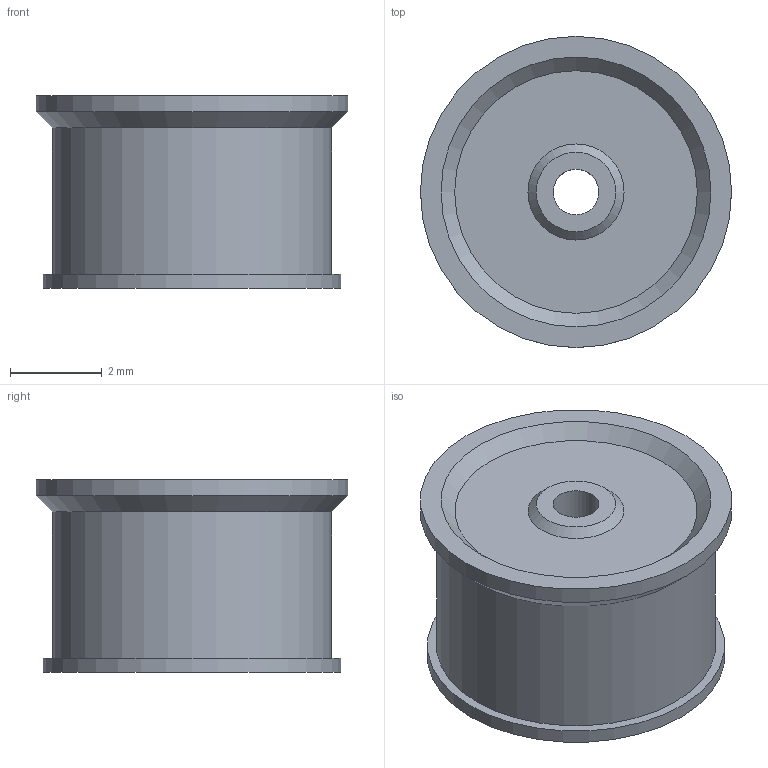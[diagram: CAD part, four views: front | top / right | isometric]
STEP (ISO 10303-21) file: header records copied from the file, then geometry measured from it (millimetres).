
FILE_DESCRIPTION(('Open CASCADE Model'),'2;1');
FILE_NAME('Open CASCADE Shape Model','2026-10-09T16:33:03',('Author'),( 'Open CASCADE'),'Open CASCADE STEP processor 8.0','build123d', 'Unknown');
FILE_SCHEMA(('AUTOMOTIVE_DESIGN { 1 0 10303 214 1 1 1 1 }'));
Length unit declared in the file: millimetre
Products named in the file (1): COMPOUND
Bounding box: 6.8 x 6.8 x 4.2 mm (x, y, z)
Volume: 117.6 mm3; surface area: 172.3 mm2
Topology: 1 solids, 1 shells, 12 faces, 19 edges, 12 vertices
Faces by surface type: plane 5, cylinder 4, cone 3
Full cylindrical faces by diameter (mm): 1 x1, 6.1 x1, 6.5 x1, 6.8 x1
Entity records: 539 total; most frequent: DIRECTION 94, CARTESIAN_POINT 83, ORIENTED_EDGE 38, PCURVE 38, DEFINITIONAL_REPRESENTATION 38, LINE 34, VECTOR 34, AXIS2_PLACEMENT_3D 25
